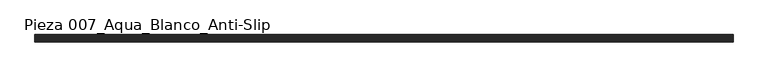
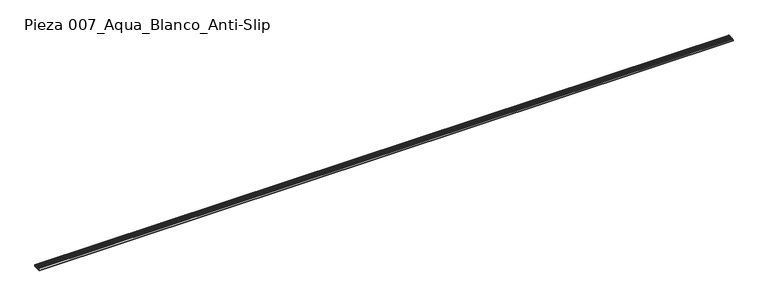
"""IFC4 building model written with IfcOpenShell, lengths in millimetres: slab geometry, ROSA GRES_007 : Pieza 007_Aqua_Blanco_Anti-Slip."""

from ifc_helpers import new_model, si_unit, point, frame, frame_2d, origin, place, context, project, spatial, polyline, circle_curve, trimmed, segment, composite_curve, outline, extrude, source, transform, mapped, element, save


def pieza_007_aqua_blanco_anti_slip_b1f7aa5c(model_context):
    return source(origin(), model_context, "Body", "SweptSolid", [
        extrude(outline(composite_curve([segment(polyline([(14.3742659, 174.3159971), (0.6896004, 173.202129), (-0.0710994, 182.547869)]), True, "CONTINUOUS"), segment(trimmed(circle_curve(frame_2d((15.1536138, 183.7870899)), 15.2750633), [point((-0.0710994, 182.547869))], [point((12.7748841, 198.875801))], False, "CARTESIAN"), True, "CONTINUOUS"), segment(polyline([(12.7748841, 198.875801), (16.9364731, 199.1796191)]), True, "CONTINUOUS"), segment(trimmed(circle_curve(frame_2d((20.3008643, 202.7650351)), 4.9167404), [point((16.9364731, 199.1796191))], [point((24.7247274, 200.6193952))], True, "CARTESIAN"), True, "CONTINUOUS"), segment(trimmed(circle_curve(frame_2d((27.3971937, 201.142641)), 2.7232081), [point((24.7247274, 200.6193952))], [point((29.9345538, 200.1538709))], True, "CARTESIAN"), True, "CONTINUOUS"), segment(polyline([(29.9345538, 200.1538709), (33.8762309, 200.4746837), (37.1820416, 176.172444)]), True, "CONTINUOUS"), segment(trimmed(circle_curve(frame_2d((25.9545763, 173.0767428)), 11.6464304), [point((37.1820416, 176.172444))], [point((14.3742659, 174.3159971))], True, "CARTESIAN"), True, "CONTINUOUS")], self_intersect=False)), frame((0.0, 0.0, 0.0), z_axis=(1.0, 0.0, 0.0), x_axis=(0.0, 1.0, 0.0)), (0.0, 0.0, 1.0), 11502.2095207),
        extrude(outline(composite_curve([segment(polyline([(71.8498608, 178.9942432), (37.1820416, 176.172444), (33.8762309, 200.4746837)]), True, "CONTINUOUS"), segment(trimmed(circle_curve(frame_2d((106.9597263, 233.2212806)), 80.084561), [point((33.8762309, 200.4746837))], [point((40.9402045, 187.8896178))], True, "CARTESIAN"), True, "CONTINUOUS"), segment(trimmed(circle_curve(frame_2d((43.5817022, 189.3117604)), 3.0), [point((40.9402045, 187.8896178))], [point((43.8250834, 186.3216491))], True, "CARTESIAN"), True, "CONTINUOUS"), segment(polyline([(43.8250834, 186.3216491), (61.867532, 187.7902205)]), True, "CONTINUOUS"), segment(trimmed(circle_curve(frame_2d((57.0579989, 199.0821231)), 12.2734948), [point((61.867532, 187.7902205))], [point((69.3023399, 198.236672))], True, "CARTESIAN"), True, "CONTINUOUS"), segment(polyline([(69.3023399, 198.236672), (69.6579726, 203.3871621), (73.3820924, 203.6902881)]), True, "CONTINUOUS"), segment(trimmed(circle_curve(frame_2d((76.8218788, 206.722806)), 4.5856619), [point((73.3820924, 203.6902881))], [point((81.0271834, 204.8942251))], True, "CARTESIAN"), True, "CONTINUOUS"), segment(trimmed(circle_curve(frame_2d((84.8780848, 207.3839748)), 4.5856619), [point((81.0271834, 204.8942251))], [point((89.0833894, 205.555394))], True, "CARTESIAN"), True, "CONTINUOUS"), segment(trimmed(circle_curve(frame_2d((92.9342908, 208.0451437)), 4.5856619), [point((89.0833894, 205.555394))], [point((97.1292049, 206.1928503))], True, "CARTESIAN"), True, "CONTINUOUS"), segment(trimmed(circle_curve(frame_2d((100.9933064, 209.1504161)), 4.8660534), [point((97.1292049, 206.1928503))], [point((105.2742048, 206.836894))], True, "CARTESIAN"), True, "CONTINUOUS"), segment(trimmed(circle_curve(frame_2d((109.1074243, 209.7932705)), 4.8408403), [point((105.2742048, 206.836894))], [point((113.0660814, 207.0070959))], True, "CARTESIAN"), True, "CONTINUOUS"), segment(polyline([(113.0660814, 207.0070959), (115.3491545, 207.1930072), (115.5338707, 204.9236084), (117.4809059, 205.0820876), (119.2900344, 182.8556525), (108.342302, 181.9645582)]), True, "CONTINUOUS"), segment(trimmed(circle_curve(frame_2d((91.1625174, 167.3774726)), 22.5372595), [point((108.342302, 181.9645582))], [point((71.8498608, 178.9942432))], True, "CARTESIAN"), True, "CONTINUOUS")], self_intersect=False)), frame((0.0, 0.0, 0.0), z_axis=(1.0, 0.0, 0.0), x_axis=(0.0, 1.0, 0.0)), (0.0, 0.0, 1.0), 11502.2095207),
    ])


if __name__ == "__main__":
    model = new_model("IFC4")
    model_context = context("Model", 3, world=origin())
    ifc_project = project(units=[si_unit("LENGTHUNIT", "METRE", prefix="MILLI")], contexts=[model_context])
    site = spatial("IfcSite", under=ifc_project)
    building = spatial("IfcBuilding", under=site)
    placement = place(None, origin())
    pieza_007_aqua_blanco_anti_slip_shape = pieza_007_aqua_blanco_anti_slip_b1f7aa5c(model_context)
    element("IfcSlab", 1, ObjectType="ROSA GRES_007 : Pieza 007_Aqua_Blanco_Anti-Slip", at=placement, inside=building, context=model_context, shape_type="MappedRepresentation", body=[
        mapped(pieza_007_aqua_blanco_anti_slip_shape, transform((0.0, 0.0, 0.0), x_axis=(1.0, 0.0, 0.0), y_axis=(0.0, 1.0, 0.0), z_axis=(0.0, 0.0, 1.0))),
    ])
    save(model, "model.ifc")
